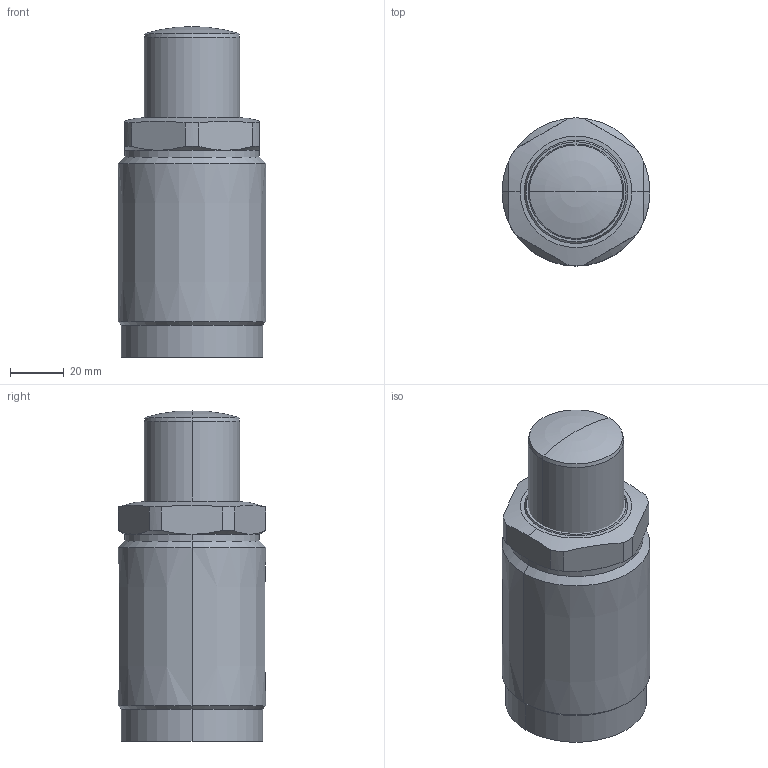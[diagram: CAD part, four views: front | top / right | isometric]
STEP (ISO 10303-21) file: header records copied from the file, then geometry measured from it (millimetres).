
FILE_DESCRIPTION (( 'STEP AP203' ), '1' );
FILE_NAME ('650551-RL.step', '2016-11-02T03:15:00', ( 'wxp' ), ( '' ), 'SwSTEP 2.0', 'SolidWorks 2011', '' );
FILE_SCHEMA (( 'CONFIG_CONTROL_DESIGN' ));
Length unit declared in the file: millimetre
Products named in the file (3): 650551-RL; 葩璃 650551-RL.sldasm-Part-2^650551-RL; 葩璃 650551-RL.sldasm-Part-1^650551-RL
Assembly tree (2 placements, depth 2):
  650551-RL
    葩璃 650551-RL.sldasm-Part-2^650551-RL
    葩璃 650551-RL.sldasm-Part-1^650551-RL
Bounding box: 55 x 55 x 123 mm (x, y, z)
Volume: 236159.5 mm3; surface area: 26695.4 mm2
Topology: 2 solids, 2 shells, 66 faces, 144 edges, 84 vertices
Faces by surface type: cylinder 24, cone 20, plane 14, torus 8
Entity records: 2177 total; most frequent: CARTESIAN_POINT 473, DIRECTION 314, ORIENTED_EDGE 280, AXIS2_PLACEMENT_3D 141, EDGE_CURVE 140, VERTEX_POINT 84, EDGE_LOOP 72, CIRCLE 70
